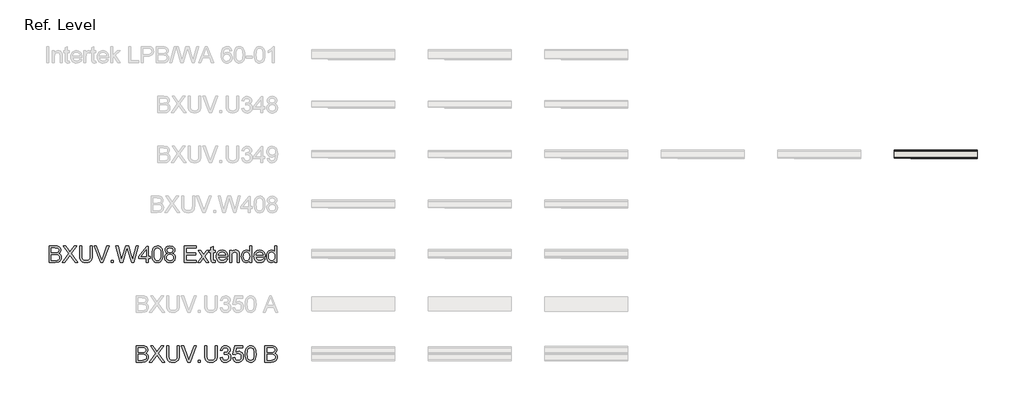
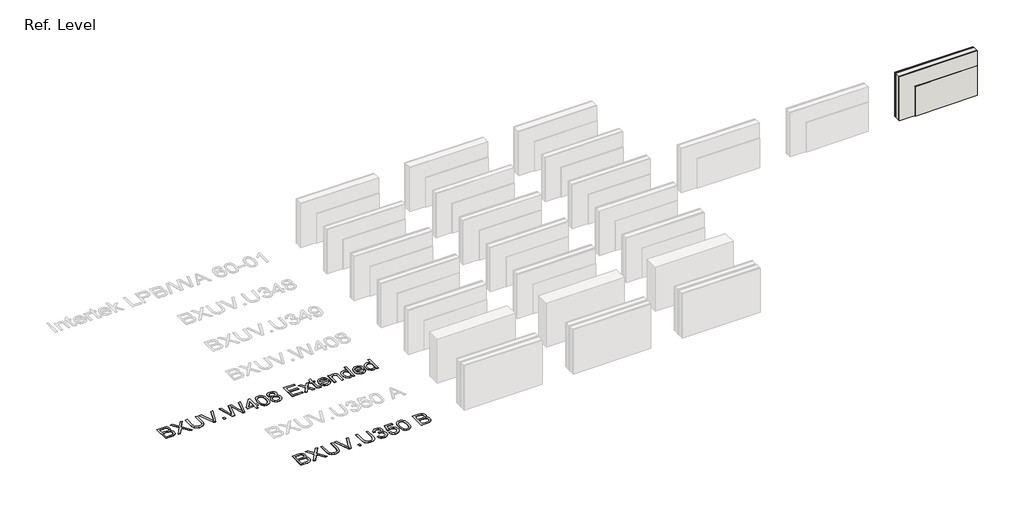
# One storey, part 2 of 5: 2 proxies, 1 wall.
"""IFC4 building model written with IfcOpenShell, lengths in millimetres."""

from ifc_helpers import new_model, si_unit, origin, origin_with_axes, place, context, project, spatial, polyline, outline, extrude, element, save

model = new_model("IFC4")

# Units and contexts
model_context = context("Model", 3, world=origin())
ifc_project = project(units=[si_unit("LENGTHUNIT", "METRE", prefix="MILLI")], contexts=[model_context])

# Site, building, storey
site = spatial("IfcSite", under=ifc_project)
building = spatial("IfcBuilding", under=site)
storey = spatial("IfcBuildingStorey", under=building, Name="Ref. Level", Elevation=0.0)

# Proxies
placement = place(None, origin())
element("IfcBuildingElementProxy", 1, Name="12\" Arial", ObjectType="12\" Arial", at=placement, inside=storey, context=model_context, shape_type="SweptSolid", body=[
    extrude(outline(polyline([(-10940.3470163, -6933.3819205), (-10940.3470163, -6633.2711512), (-10825.8272086, -6633.2711512), (-10794.330598, -6635.4783868), (-10769.7396125, -6642.1000935), (-10750.8911028, -6653.3011272), (-10736.6219202, -6669.2463435), (-10727.6372807, -6688.0032666), (-10724.6424009, -6707.6394205), (-10727.1610307, -6725.7094445), (-10734.7169202, -6742.6987474), (-10747.3650211, -6757.5632426), (-10765.1602855, -6769.2588435), (-10743.90305, -6780.359132), (-10728.1959586, -6797.2476897), (-10718.4969442, -6818.8071608), (-10715.2639394, -6843.9201897), (-10717.471175, -6864.8477137), (-10724.0928817, -6884.2549012), (-10733.9750692, -6900.7587955), (-10745.9637471, -6912.9764397), (-10760.6450692, -6921.8236993), (-10778.6051894, -6928.2164397), (-10826.7064394, -6933.3819205), (-10940.3470163, -6933.3819205)]), holes=[polyline([(-10902.8331702, -6755.1911512), (-10834.3264394, -6755.1911512), (-10794.3214394, -6751.9673051), (-10780.3178577, -6746.4080022), (-10770.2524971, -6738.0827858), (-10764.1803096, -6727.1198772), (-10762.1562471, -6713.6474974), (-10764.0429298, -6700.5689397), (-10769.7029778, -6689.1755743), (-10778.879949, -6680.2825214), (-10791.3174009, -6674.7049012), (-10839.5285548, -6670.7849974), (-10902.8331702, -6670.7849974), (-10902.8331702, -6755.1911512)]), polyline([(-10902.8331702, -6895.8680743), (-10825.9004778, -6895.8680743), (-10798.0581702, -6894.4026897), (-10774.5021125, -6886.2331705), (-10758.8957663, -6869.5644205), (-10754.3072807, -6857.7863916), (-10752.7777855, -6844.2865358), (-10754.5728817, -6828.6069205), (-10759.9581702, -6815.125382), (-10769.3641077, -6804.5837714), (-10783.2211509, -6797.7239397), (-10802.8481461, -6793.959733), (-10829.5639394, -6792.7049974), (-10902.8331702, -6792.7049974), (-10902.8331702, -6895.8680743)])]), origin_with_axes(), (0.0, 0.0, 1.0), 3.175),
    extrude(outline(polyline([(-10696.5070163, -6933.3819205), (-10580.8149009, -6769.8449974), (-10677.7500932, -6633.2711512), (-10632.7627855, -6633.2711512), (-10578.1772086, -6710.1305743), (-10559.7866317, -6740.0976897), (-10538.2454778, -6709.6176897), (-10484.2460548, -6633.2711512), (-10438.599324, -6633.2711512), (-10535.5345163, -6770.2846128), (-10419.8424009, -6933.3819205), (-10464.8297086, -6933.3819205), (-10541.9089394, -6824.650382), (-10557.9549009, -6802.0834589), (-10575.6127855, -6826.8484589), (-10650.8602855, -6933.3819205), (-10696.5070163, -6933.3819205)])), origin_with_axes(), (0.0, 0.0, 1.0), 3.175),
    extrude(outline(polyline([(-10185.3808625, -6633.2711512), (-10147.8670163, -6633.2711512), (-10147.8670163, -6806.4063435), (-10150.4131221, -6846.9517041), (-10158.0514394, -6878.1735551), (-10172.3206221, -6902.2608147), (-10194.759324, -6921.4024012), (-10225.4224971, -6933.9039637), (-10264.3650932, -6938.0711512), (-10302.4559346, -6934.4443243), (-10332.9084586, -6923.5638435), (-10355.731824, -6905.8052137), (-10370.9351894, -6881.5439397), (-10379.4802134, -6849.0032426), (-10382.3285548, -6806.4063435), (-10382.3285548, -6633.2711512), (-10344.8147086, -6633.2711512), (-10344.8147086, -6805.0874974), (-10342.9646605, -6838.8005022), (-10337.4145163, -6862.274132), (-10327.3583144, -6878.5307426), (-10311.9900932, -6890.5926897), (-10291.9509586, -6898.0661512), (-10267.8820163, -6900.5573051), (-10229.7270644, -6895.6299493), (-10215.4441437, -6889.4707546), (-10204.3575932, -6880.847882), (-10196.0552735, -6868.7218243), (-10190.1250452, -6852.0530743), (-10185.3808625, -6805.0874974), (-10185.3808625, -6633.2711512)])), origin_with_axes(), (0.0, 0.0, 1.0), 3.175),
    extrude(outline(polyline([(-9993.5620163, -6933.3819205), (-10112.9908625, -6633.2711512), (-10072.839324, -6633.2711512), (-9992.9025932, -6849.4886512), (-9976.7100932, -6898.2126897), (-9960.7374009, -6849.4886512), (-9880.5808625, -6633.2711512), (-9840.429324, -6633.2711512), (-9954.8025932, -6933.3819205), (-9993.5620163, -6933.3819205)])), origin_with_axes(), (0.0, 0.0, 1.0), 3.175),
    extrude(outline(polyline([(-9800.8639394, -6933.3819205), (-9800.8639394, -6895.8680743), (-9763.3500932, -6895.8680743), (-9763.3500932, -6933.3819205), (-9800.8639394, -6933.3819205)])), origin_with_axes(), (0.0, 0.0, 1.0), 3.175),
    extrude(outline(polyline([(-9491.3747086, -6633.2711512), (-9453.8608625, -6633.2711512), (-9453.8608625, -6806.4063435), (-9456.4069682, -6846.9517041), (-9464.0452855, -6878.1735551), (-9478.3144682, -6902.2608147), (-9500.7531702, -6921.4024012), (-9531.4163432, -6933.9039637), (-9570.3589394, -6938.0711512), (-9608.4497807, -6934.4443243), (-9638.9023048, -6923.5638435), (-9661.7256702, -6905.8052137), (-9676.9290355, -6881.5439397), (-9685.4740596, -6849.0032426), (-9688.3224009, -6806.4063435), (-9688.3224009, -6633.2711512), (-9650.8085548, -6633.2711512), (-9650.8085548, -6805.0874974), (-9648.9585067, -6838.8005022), (-9643.4083625, -6862.274132), (-9633.3521605, -6878.5307426), (-9617.9839394, -6890.5926897), (-9597.9448048, -6898.0661512), (-9573.8758625, -6900.5573051), (-9535.7209105, -6895.6299493), (-9521.4379899, -6889.4707546), (-9510.3514394, -6880.847882), (-9502.0491197, -6868.7218243), (-9496.1188913, -6852.0530743), (-9491.3747086, -6805.0874974), (-9491.3747086, -6633.2711512)])), origin_with_axes(), (0.0, 0.0, 1.0), 3.175),
    extrude(outline(polyline([(-9402.279324, -6853.6649974), (-9364.7654778, -6848.9757666), (-9356.3669923, -6872.5501416), (-9344.0669202, -6888.467882), (-9327.2607903, -6897.5349493), (-9305.3441317, -6900.5573051), (-9279.6266317, -6896.3992762), (-9259.7706702, -6883.9251897), (-9247.0767759, -6865.3148051), (-9242.8454778, -6842.747882), (-9247.0401413, -6821.3257906), (-9259.6241317, -6803.9518243), (-9278.6741317, -6792.4393964), (-9302.266824, -6788.6019205), (-9328.5704778, -6792.7049974), (-9324.3941317, -6755.1911512), (-9318.3860548, -6755.6307666), (-9295.9107182, -6752.9381224), (-9275.8166317, -6744.8601897), (-9261.6390355, -6731.1954781), (-9256.9131702, -6711.7424974), (-9260.3385067, -6695.5408387), (-9270.6145163, -6682.3981705), (-9286.2941317, -6673.6882906), (-9305.9302855, -6670.7849974), (-9325.603074, -6673.7157666), (-9341.6856702, -6682.5080743), (-9353.4270644, -6697.1619205), (-9360.0762471, -6717.6773051), (-9397.5900932, -6712.9880743), (-9386.5447567, -6679.3025455), (-9366.8902855, -6654.152882), (-9340.0004778, -6638.4915839), (-9307.2491317, -6633.2711512), (-9283.665598, -6635.844733), (-9262.0053817, -6643.5654781), (-9243.7430259, -6655.7464878), (-9230.353074, -6671.7008628), (-9222.1377615, -6690.082281), (-9219.399324, -6709.5444205), (-9222.0003817, -6727.6785551), (-9229.8035548, -6744.1274974), (-9242.6989394, -6758.1402378), (-9260.5766317, -6768.9657666), (-9237.0938432, -6778.454132), (-9219.6924009, -6794.6099974), (-9208.921824, -6816.554132), (-9205.3316317, -6843.4073051), (-9207.1267278, -6862.4389878), (-9212.5120163, -6879.9686512), (-9221.4874971, -6895.9962955), (-9234.0531702, -6910.5219205), (-9249.3618601, -6922.5747089), (-9266.5663913, -6931.1838435), (-9285.6667639, -6936.3493243), (-9306.6629778, -6938.0711512), (-9342.9312471, -6932.1912955), (-9358.5375932, -6924.8414757), (-9372.4587471, -6914.5517281), (-9384.1314514, -6901.9265238), (-9392.992449, -6887.5703339), (-9402.279324, -6853.6649974)])), origin_with_axes(), (0.0, 0.0, 1.0), 3.175),
    extrude(outline(polyline([(-9172.5070163, -6853.6649974), (-9134.9931702, -6848.9757666), (-9128.1058625, -6871.4968964), (-9116.0897086, -6887.6252858), (-9098.9996605, -6897.3243003), (-9076.8906702, -6900.5573051), (-9050.0008625, -6896.060406), (-9029.851824, -6882.5697089), (-9017.2678336, -6861.6421849), (-9013.0731702, -6834.8348051), (-9017.0022327, -6809.5935551), (-9028.7894202, -6790.2871128), (-9048.5263192, -6778.0328339), (-9076.3045163, -6773.9480743), (-9094.5027615, -6775.5783147), (-9109.2390355, -6780.4690358), (-9130.3039394, -6797.3942281), (-9167.8177855, -6792.7049974), (-9134.9931702, -6637.960382), (-8989.6270163, -6637.960382), (-8989.6270163, -6675.4742281), (-9104.6597086, -6675.4742281), (-9120.7056702, -6758.1219205), (-9093.907449, -6741.8561512), (-9065.8270163, -6736.4342281), (-9047.5577915, -6738.1148411), (-9030.776848, -6743.1566801), (-9015.4841858, -6751.559745), (-9001.6798048, -6763.3240358), (-8990.2520944, -6777.7305983), (-8982.0894442, -6794.0604781), (-8977.191854, -6812.3136753), (-8975.559324, -6832.4901897), (-8981.4391798, -6870.0040358), (-8988.7889995, -6886.7277378), (-8999.0787471, -6902.0959589), (-9014.6667759, -6917.8351056), (-9032.8558625, -6929.0773531), (-9053.6460067, -6935.8227017), (-9077.0372086, -6938.0711512), (-9113.882473, -6932.2920406), (-9129.4956882, -6925.0681524), (-9143.2359586, -6914.9547089), (-9154.6682483, -6902.4554361), (-9163.3575211, -6888.0740599), (-9172.5070163, -6853.6649974)])), origin_with_axes(), (0.0, 0.0, 1.0), 3.175),
    extrude(outline(polyline([(-8942.7347086, -6785.7444205), (-8939.9779538, -6737.707281), (-8931.7076894, -6699.396632), (-8918.0063432, -6670.2263195), (-8898.9563432, -6649.6101897), (-8874.4203096, -6637.3559108), (-8844.2608625, -6633.2711512), (-8821.1444202, -6635.6890358), (-8800.4458625, -6642.9426897), (-8783.1360067, -6654.7481945), (-8770.1856702, -6670.821632), (-8760.4042278, -6691.0256224), (-8752.6010548, -6715.2227858), (-8747.4905259, -6745.9500695), (-8745.7870163, -6785.7444205), (-8748.5162952, -6833.5068003), (-8756.7041317, -6871.7258628), (-8770.32305, -6900.9236512), (-8789.345574, -6921.6222089), (-8813.9365596, -6933.9589156), (-8844.2608625, -6938.0711512), (-8864.9227855, -6936.2852137), (-8883.2400932, -6930.9274012), (-8899.2127855, -6921.9977137), (-8912.8408625, -6909.4961512), (-8925.9194202, -6886.8971729), (-8935.2612471, -6858.7388916), (-8940.8663432, -6825.0213075), (-8942.7347086, -6785.7444205)]), holes=[polyline([(-8905.2208625, -6785.6711512), (-8900.8247086, -6844.680358), (-8895.3295163, -6864.8637414), (-8887.6362471, -6878.8329781), (-8868.0000932, -6895.1262233), (-8844.2608625, -6900.5573051), (-8820.5216317, -6895.107906), (-8800.8854778, -6878.7597089), (-8793.1922086, -6864.7675755), (-8787.6970163, -6844.5887714), (-8783.3008625, -6785.6711512), (-8787.5504778, -6727.9899493), (-8792.8624971, -6707.8729661), (-8800.299324, -6693.5717281), (-8819.8988432, -6676.4816801), (-8844.7004778, -6670.7849974), (-8868.1832663, -6675.8039397), (-8887.0500932, -6690.8607666), (-8894.9998048, -6706.4304781), (-8900.6781702, -6727.4221128), (-8905.2208625, -6785.6711512)])]), origin_with_axes(), (0.0, 0.0, 1.0), 3.175),
    extrude(outline(polyline([(-8581.6639394, -6933.3819205), (-8581.6639394, -6633.2711512), (-8467.1441317, -6633.2711512), (-8435.6475211, -6635.4783868), (-8411.0565355, -6642.1000935), (-8392.2080259, -6653.3011272), (-8377.9388432, -6669.2463435), (-8368.9542038, -6688.0032666), (-8365.959324, -6707.6394205), (-8368.4779538, -6725.7094445), (-8376.0338432, -6742.6987474), (-8388.6819442, -6757.5632426), (-8406.4772086, -6769.2588435), (-8385.219973, -6780.359132), (-8369.5128817, -6797.2476897), (-8359.8138673, -6818.8071608), (-8356.5808625, -6843.9201897), (-8358.788098, -6864.8477137), (-8365.4098048, -6884.2549012), (-8375.2919923, -6900.7587955), (-8387.2806702, -6912.9764397), (-8401.9619923, -6921.8236993), (-8419.9221125, -6928.2164397), (-8468.0233625, -6933.3819205), (-8581.6639394, -6933.3819205)]), holes=[polyline([(-8544.1500932, -6755.1911512), (-8475.6433625, -6755.1911512), (-8435.6383625, -6751.9673051), (-8421.6347807, -6746.4080022), (-8411.5694202, -6738.0827858), (-8405.4972327, -6727.1198772), (-8403.4731702, -6713.6474974), (-8405.3598528, -6700.5689397), (-8411.0199009, -6689.1755743), (-8420.1968721, -6680.2825214), (-8432.634324, -6674.7049012), (-8480.8454778, -6670.7849974), (-8544.1500932, -6670.7849974), (-8544.1500932, -6755.1911512)]), polyline([(-8544.1500932, -6895.8680743), (-8467.2174009, -6895.8680743), (-8439.3750932, -6894.4026897), (-8415.8190355, -6886.2331705), (-8400.2126894, -6869.5644205), (-8395.6242038, -6857.7863916), (-8394.0947086, -6844.2865358), (-8395.8898048, -6828.6069205), (-8401.2750932, -6815.125382), (-8410.6810307, -6804.5837714), (-8424.538074, -6797.7239397), (-8444.1650692, -6793.959733), (-8470.8808625, -6792.7049974), (-8544.1500932, -6792.7049974), (-8544.1500932, -6895.8680743)])]), origin_with_axes(), (0.0, 0.0, 1.0), 3.175),
])
element("IfcBuildingElementProxy", 2, Name="12\" Arial", ObjectType="12\" Arial", at=placement, inside=storey, context=model_context, shape_type="SweptSolid", body=[
    extrude(outline(polyline([(-12534.6854778, -5104.5819205), (-12534.6854778, -4804.4711512), (-12420.1656702, -4804.4711512), (-12388.6690596, -4806.6783868), (-12364.078074, -4813.3000935), (-12345.2295644, -4824.5011272), (-12330.9603817, -4840.4463435), (-12321.9757423, -4859.2032666), (-12318.9808625, -4878.8394205), (-12321.4994923, -4896.9094445), (-12329.0553817, -4913.8987474), (-12341.7034827, -4928.7632426), (-12359.4987471, -4940.4588435), (-12338.2415115, -4951.559132), (-12322.5344202, -4968.4476897), (-12312.8354057, -4990.0071608), (-12309.6024009, -5015.1201897), (-12311.8096365, -5036.0477137), (-12318.4313432, -5055.4549012), (-12328.3135307, -5071.9587955), (-12340.3022086, -5084.1764397), (-12354.9835307, -5093.0236993), (-12372.9436509, -5099.4164397), (-12421.0449009, -5104.5819205), (-12534.6854778, -5104.5819205)]), holes=[polyline([(-12497.1716317, -4926.3911512), (-12428.6649009, -4926.3911512), (-12388.6599009, -4923.1673051), (-12374.6563192, -4917.6080022), (-12364.5909586, -4909.2827858), (-12358.5187711, -4898.3198772), (-12356.4947086, -4884.8474974), (-12358.3813913, -4871.7689397), (-12364.0414394, -4860.3755743), (-12373.2184105, -4851.4825214), (-12385.6558625, -4845.9049012), (-12433.8670163, -4841.9849974), (-12497.1716317, -4841.9849974), (-12497.1716317, -4926.3911512)]), polyline([(-12497.1716317, -5067.0680743), (-12420.2389394, -5067.0680743), (-12392.3966317, -5065.6026897), (-12368.840574, -5057.4331705), (-12353.2342278, -5040.7644205), (-12348.6457423, -5028.9863916), (-12347.1162471, -5015.4865358), (-12348.9113432, -4999.8069205), (-12354.2966317, -4986.325382), (-12363.7025692, -4975.7837714), (-12377.5596125, -4968.9239397), (-12397.1866077, -4965.159733), (-12423.9024009, -4963.9049974), (-12497.1716317, -4963.9049974), (-12497.1716317, -5067.0680743)])]), origin_with_axes(), (0.0, 0.0, 1.0), 3.175),
    extrude(outline(polyline([(-12290.8454778, -5104.5819205), (-12175.1533625, -4941.0449974), (-12272.0885548, -4804.4711512), (-12227.1012471, -4804.4711512), (-12172.5156702, -4881.3305743), (-12154.1250932, -4911.2976897), (-12132.5839394, -4880.8176897), (-12078.5845163, -4804.4711512), (-12032.9377855, -4804.4711512), (-12129.8729778, -4941.4846128), (-12014.1808625, -5104.5819205), (-12059.1681702, -5104.5819205), (-12136.2474009, -4995.850382), (-12152.2933625, -4973.2834589), (-12169.9512471, -4998.0484589), (-12245.1987471, -5104.5819205), (-12290.8454778, -5104.5819205)])), origin_with_axes(), (0.0, 0.0, 1.0), 3.175),
    extrude(outline(polyline([(-11779.719324, -4804.4711512), (-11742.2054778, -4804.4711512), (-11742.2054778, -4977.6063435), (-11744.7515836, -5018.1517041), (-11752.3899009, -5049.3735551), (-11766.6590836, -5073.4608147), (-11789.0977855, -5092.6024012), (-11819.7609586, -5105.1039637), (-11858.7035548, -5109.2711512), (-11896.7943961, -5105.6443243), (-11927.2469202, -5094.7638435), (-11950.0702855, -5077.0052137), (-11965.2736509, -5052.7439397), (-11973.818675, -5020.2032426), (-11976.6670163, -4977.6063435), (-11976.6670163, -4804.4711512), (-11939.1531702, -4804.4711512), (-11939.1531702, -4976.2874974), (-11937.3031221, -5010.0005022), (-11931.7529778, -5033.474132), (-11921.6967759, -5049.7307426), (-11906.3285548, -5061.7926897), (-11886.2894202, -5069.2661512), (-11862.2204778, -5071.7573051), (-11824.0655259, -5066.8299493), (-11809.7826052, -5060.6707546), (-11798.6960548, -5052.047882), (-11790.3937351, -5039.9218243), (-11784.4635067, -5023.2530743), (-11779.719324, -4976.2874974), (-11779.719324, -4804.4711512)])), origin_with_axes(), (0.0, 0.0, 1.0), 3.175),
    extrude(outline(polyline([(-11587.9004778, -5104.5819205), (-11707.329324, -4804.4711512), (-11667.1777855, -4804.4711512), (-11587.2410548, -5020.6886512), (-11571.0485548, -5069.4126897), (-11555.0758625, -5020.6886512), (-11474.919324, -4804.4711512), (-11434.7677855, -4804.4711512), (-11549.1410548, -5104.5819205), (-11587.9004778, -5104.5819205)])), origin_with_axes(), (0.0, 0.0, 1.0), 3.175),
    extrude(outline(polyline([(-11395.2024009, -5104.5819205), (-11395.2024009, -5067.0680743), (-11357.6885548, -5067.0680743), (-11357.6885548, -5104.5819205), (-11395.2024009, -5104.5819205)])), origin_with_axes(), (0.0, 0.0, 1.0), 3.175),
    extrude(outline(polyline([(-11228.9545163, -5104.5819205), (-11310.7962471, -4804.4711512), (-11272.1100932, -4804.4711512), (-11224.6316317, -5001.7119205), (-11209.9777855, -5062.5986512), (-11194.2981702, -5008.7457666), (-11134.8035548, -4804.4711512), (-11079.0456702, -4804.4711512), (-11035.816824, -4952.5482666), (-11017.2980259, -5007.5001897), (-11003.6516317, -5062.5986512), (-10989.4374009, -5003.470382), (-10941.519324, -4804.4711512), (-10902.8331702, -4804.4711512), (-10984.7481702, -5104.5819205), (-11024.8264394, -5104.5819205), (-11096.776824, -4873.0511512), (-11106.8147086, -4840.7394205), (-11118.0981702, -4879.645382), (-11183.6741317, -5104.5819205), (-11228.9545163, -5104.5819205)])), origin_with_axes(), (0.0, 0.0, 1.0), 3.175),
    extrude(outline(polyline([(-10757.4670163, -5104.5819205), (-10757.4670163, -5034.2434589), (-10893.4547086, -5034.2434589), (-10893.4547086, -4996.7296128), (-10748.0885548, -4809.160382), (-10719.9531702, -4809.160382), (-10719.9531702, -4996.7296128), (-10682.439324, -4996.7296128), (-10682.439324, -5034.2434589), (-10719.9531702, -5034.2434589), (-10719.9531702, -5104.5819205), (-10757.4670163, -5104.5819205)]), holes=[polyline([(-10757.4670163, -4996.7296128), (-10757.4670163, -4880.8176897), (-10847.2950932, -4996.7296128), (-10757.4670163, -4996.7296128)])]), origin_with_axes(), (0.0, 0.0, 1.0), 3.175),
    extrude(outline(polyline([(-10649.6147086, -4956.9444205), (-10646.8579538, -4908.907281), (-10638.5876894, -4870.596632), (-10624.8863432, -4841.4263195), (-10605.8363432, -4820.8101897), (-10581.3003096, -4808.5559108), (-10551.1408625, -4804.4711512), (-10528.0244202, -4806.8890358), (-10507.3258625, -4814.1426897), (-10490.0160067, -4825.9481945), (-10477.0656702, -4842.021632), (-10467.2842278, -4862.2256224), (-10459.4810548, -4886.4227858), (-10454.3705259, -4917.1500695), (-10452.6670163, -4956.9444205), (-10455.3962952, -5004.7068003), (-10463.5841317, -5042.9258628), (-10477.20305, -5072.1236512), (-10496.225574, -5092.8222089), (-10520.8165596, -5105.1589156), (-10551.1408625, -5109.2711512), (-10571.8027855, -5107.4852137), (-10590.1200932, -5102.1274012), (-10606.0927855, -5093.1977137), (-10619.7208625, -5080.6961512), (-10632.7994202, -5058.0971729), (-10642.1412471, -5029.9388916), (-10647.7463432, -4996.2213075), (-10649.6147086, -4956.9444205)]), holes=[polyline([(-10612.1008625, -4956.8711512), (-10607.7047086, -5015.880358), (-10602.2095163, -5036.0637414), (-10594.5162471, -5050.0329781), (-10574.8800932, -5066.3262233), (-10551.1408625, -5071.7573051), (-10527.4016317, -5066.307906), (-10507.7654778, -5049.9597089), (-10500.0722086, -5035.9675755), (-10494.5770163, -5015.7887714), (-10490.1808625, -4956.8711512), (-10494.4304778, -4899.1899493), (-10499.7424971, -4879.0729661), (-10507.179324, -4864.7717281), (-10526.7788432, -4847.6816801), (-10551.5804778, -4841.9849974), (-10575.0632663, -4847.0039397), (-10593.9300932, -4862.0607666), (-10601.8798048, -4877.6304781), (-10607.5581702, -4898.6221128), (-10612.1008625, -4956.8711512)])]), origin_with_axes(), (0.0, 0.0, 1.0), 3.175),
    extrude(outline(polyline([(-10365.1835548, -4939.2865358), (-10385.2684827, -4929.3951897), (-10399.3636509, -4915.9869205), (-10407.6888673, -4899.3364878), (-10410.4639394, -4879.7186512), (-10408.9527615, -4864.41912), (-10404.4192278, -4850.3926416), (-10396.8633384, -4837.6392161), (-10386.2850932, -4826.1588435), (-10373.1927976, -4816.6704781), (-10358.0947567, -4809.8930743), (-10321.8814394, -4804.4711512), (-10285.4483144, -4810.0212955), (-10270.1854177, -4816.9589757), (-10256.8916317, -4826.6717281), (-10246.1210548, -4838.3764878), (-10238.4277855, -4851.2901897), (-10233.811824, -4865.4128339), (-10232.2731702, -4880.7444205), (-10235.0116077, -4899.7303099), (-10243.2269202, -4916.0968243), (-10257.0106942, -4929.4226656), (-10276.4545163, -4939.2865358), (-10253.36555, -4951.1836272), (-10236.5594202, -4968.704132), (-10226.3108865, -4991.0054541), (-10222.8947086, -5017.2449974), (-10224.5890596, -5035.9561272), (-10229.6721125, -5053.1102858), (-10238.1438673, -5068.7074733), (-10250.004324, -5082.7476897), (-10264.6306942, -5094.3517041), (-10281.4001894, -5102.6402858), (-10300.3128096, -5107.6134349), (-10321.3685548, -5109.2711512), (-10342.4243, -5107.6065659), (-10361.3369202, -5102.6128099), (-10378.1064153, -5094.2898832), (-10392.7327855, -5082.6377858), (-10404.5932423, -5068.499114), (-10413.0649971, -5052.7164637), (-10418.14805, -5035.2898351), (-10419.8424009, -5016.2192281), (-10416.2888432, -4988.9630743), (-10405.6281702, -4966.5426897), (-10388.4099009, -4949.7274012), (-10365.1835548, -4939.2865358)]), holes=[polyline([(-10382.3285548, -5014.900382), (-10376.0640355, -5043.1456705), (-10367.3907903, -5055.2625695), (-10353.9000932, -5064.2838435), (-10337.7442278, -5069.8889397), (-10321.0754778, -5071.7573051), (-10295.5411509, -5067.8282426), (-10276.3812471, -5056.0410551), (-10264.4017278, -5038.1908387), (-10260.4085548, -5016.0726897), (-10264.529949, -4993.5790358), (-10276.8941317, -4975.3349974), (-10296.4936509, -4963.2455743), (-10322.3210548, -4959.2157666), (-10347.4981942, -4963.1906224), (-10366.4657663, -4975.1151897), (-10378.3628577, -4993.0111993), (-10382.3285548, -5014.900382)]), polyline([(-10372.9500932, -4880.8176897), (-10369.6255019, -4897.1933628), (-10359.6517278, -4910.2719205), (-10343.321848, -4918.8444205), (-10320.9289394, -4921.7019205), (-10299.058074, -4918.8627378), (-10282.9754778, -4910.3451897), (-10273.0841317, -4897.7062474), (-10269.7870163, -4882.502882), (-10273.1940355, -4866.7225214), (-10283.4150932, -4853.6714397), (-10299.7174971, -4844.906608), (-10321.3685548, -4841.9849974), (-10343.1569923, -4844.8424974), (-10359.4319202, -4853.4149974), (-10369.57055, -4865.9806705), (-10372.9500932, -4880.8176897)])]), origin_with_axes(), (0.0, 0.0, 1.0), 3.175),
    extrude(outline(polyline([(-10058.7716317, -5104.5819205), (-10058.7716317, -4804.4711512), (-9843.0670163, -4804.4711512), (-9843.0670163, -4841.9849974), (-10021.2577855, -4841.9849974), (-10021.2577855, -4931.080382), (-9852.4454778, -4931.080382), (-9852.4454778, -4968.5942281), (-10021.2577855, -4968.5942281), (-10021.2577855, -5067.0680743), (-9838.3777855, -5067.0680743), (-9838.3777855, -5104.5819205), (-10058.7716317, -5104.5819205)])), origin_with_axes(), (0.0, 0.0, 1.0), 3.175),
    extrude(outline(polyline([(-9810.2424009, -5104.5819205), (-9730.0858625, -4993.7988435), (-9805.5531702, -4884.1880743), (-9760.419324, -4884.1880743), (-9724.0045163, -4936.9419205), (-9707.0060548, -4961.8534589), (-9692.2789394, -4941.4846128), (-9650.8085548, -4884.1880743), (-9605.6747086, -4884.1880743), (-9684.9520163, -4993.7988435), (-9608.6054778, -5104.5819205), (-9653.739324, -5104.5819205), (-9699.6791317, -5037.9801897), (-9708.1050932, -5025.8174974), (-9765.1085548, -5104.5819205), (-9810.2424009, -5104.5819205)])), origin_with_axes(), (0.0, 0.0, 1.0), 3.175),
    extrude(outline(polyline([(-9496.0639394, -5073.2959589), (-9491.3747086, -5105.6809589), (-9519.436824, -5109.2711512), (-9537.4427375, -5107.7141801), (-9550.869324, -5103.0432666), (-9560.3576894, -5095.8445647), (-9566.5489394, -5086.7042281), (-9569.9559586, -5071.0062955), (-9571.0916317, -5044.1348051), (-9571.0916317, -4921.7019205), (-9599.2270163, -4921.7019205), (-9599.2270163, -4884.1880743), (-9571.0916317, -4884.1880743), (-9571.0916317, -4830.6282666), (-9533.5777855, -4808.5742281), (-9533.5777855, -4884.1880743), (-9496.0639394, -4884.1880743), (-9496.0639394, -4921.7019205), (-9533.5777855, -4921.7019205), (-9533.5777855, -5043.0357666), (-9531.5995163, -5062.3788435), (-9525.1884586, -5069.2295166), (-9512.4029778, -5071.7573051), (-9496.0639394, -5073.2959589)])), origin_with_axes(), (0.0, 0.0, 1.0), 3.175),
    extrude(outline(polyline([(-9304.2450932, -5038.9326897), (-9267.4639394, -5043.6219205), (-9280.7165115, -5071.336007), (-9301.8638432, -5092.052882), (-9330.4296846, -5104.9665839), (-9365.9377855, -5109.2711512), (-9389.2145043, -5107.4142342), (-9409.9542759, -5101.843483), (-9428.1571004, -5092.5588976), (-9443.8229778, -5079.5604781), (-9456.4207062, -5063.2099914), (-9465.4190836, -5043.8692041), (-9470.8181101, -5021.5381164), (-9472.6177855, -4996.2167281), (-9470.7997927, -4970.0367161), (-9465.3458144, -4946.9614878), (-9456.2558504, -4926.9910431), (-9443.5299009, -4910.125382), (-9427.9052375, -4896.7262714), (-9410.1191317, -4887.1554781), (-9390.1715836, -4881.4130022), (-9368.0625932, -4879.4988435), (-9346.6656882, -4881.4084229), (-9327.3157423, -4887.1371608), (-9310.0127555, -4896.6850575), (-9294.7567278, -4910.0521128), (-9282.3032483, -4926.8811392), (-9273.4079057, -4946.8149493), (-9268.0707002, -4969.8535431), (-9266.2916317, -4995.9969205), (-9266.5114394, -5006.1080743), (-9435.1039394, -5006.1080743), (-9428.6104538, -5034.188507), (-9413.5261509, -5054.8321128), (-9391.7560307, -5067.526007), (-9365.2050932, -5071.7573051), (-9345.2392278, -5069.7973531), (-9328.4239394, -5063.9174974), (-9314.7592278, -5053.7513916), (-9304.2450932, -5038.9326897)]), holes=[polyline([(-9435.1039394, -4968.5942281), (-9303.8054778, -4968.5942281), (-9308.8793721, -4948.7749012), (-9318.8256702, -4934.5973051), (-9340.6965355, -4921.4088435), (-9368.2091317, -4917.0126897), (-9393.496175, -4920.5204541), (-9414.4053817, -4931.0437474), (-9428.9401653, -4947.4468964), (-9435.1039394, -4968.5942281)])]), origin_with_axes(), (0.0, 0.0, 1.0), 3.175),
    extrude(outline(polyline([(-9228.7777855, -5104.5819205), (-9228.7777855, -4884.1880743), (-9191.2639394, -4884.1880743), (-9191.2639394, -4914.9611512), (-9178.231175, -4899.4463916), (-9162.5790355, -4888.3644205), (-9144.3075211, -4881.7152378), (-9123.4166317, -4879.4988435), (-9104.9253096, -4881.284781), (-9087.9909586, -4886.6425935), (-9073.8683144, -4894.9036993), (-9063.8121125, -4905.3995166), (-9052.5652855, -4932.985382), (-9050.5870163, -4969.2536512), (-9050.5870163, -5104.5819205), (-9088.1008625, -5104.5819205), (-9088.1008625, -4974.3092281), (-9092.4237471, -4941.1182666), (-9098.404348, -4931.2360791), (-9107.7003817, -4923.5702858), (-9119.6157903, -4918.6520887), (-9133.4545163, -4917.0126897), (-9155.4261269, -4920.6944685), (-9174.155574, -4931.7398051), (-9181.6404839, -4940.7564998), (-9186.986848, -4953.0794685), (-9191.2639394, -4987.6442281), (-9191.2639394, -5104.5819205), (-9228.7777855, -5104.5819205)])), origin_with_axes(), (0.0, 0.0, 1.0), 3.175),
    extrude(outline(polyline([(-8863.0177855, -5104.5819205), (-8863.0177855, -5069.192882), (-8874.2417158, -5086.7271248), (-8887.8377375, -5099.2515839), (-8903.8058504, -5106.7662594), (-8922.1460548, -5109.2711512), (-8946.3981702, -5105.6443243), (-8968.5987471, -5094.7638435), (-8987.3923048, -5077.3898772), (-9001.4233625, -5054.2825935), (-9010.1607182, -5026.3761753), (-9013.0731702, -4994.6048051), (-9010.3896846, -4963.227257), (-9002.3392278, -4934.890382), (-8988.9309586, -4911.2061031), (-8970.1740355, -4893.7863435), (-8947.48805, -4883.0707185), (-8922.2925932, -4879.4988435), (-8903.9386509, -4882.054108), (-8887.7095163, -4889.7199012), (-8873.9532182, -4901.4704541), (-8863.0177855, -4916.2799974), (-8863.0177855, -4804.4711512), (-8825.5039394, -4804.4711512), (-8825.5039394, -5104.5819205), (-8863.0177855, -5104.5819205)]), holes=[polyline([(-8975.559324, -4994.4582666), (-8971.3280259, -5028.3910791), (-8958.6341317, -5052.524132), (-8940.1886028, -5066.9490118), (-8918.7024009, -5071.7573051), (-8897.2253577, -5067.1688195), (-8879.2469202, -5053.4033628), (-8867.0750692, -5030.2044926), (-8863.0177855, -4997.3157666), (-8867.1483384, -4961.3588916), (-8879.5399971, -4936.4290358), (-8897.9763673, -4921.8667762), (-8920.2410548, -4917.0126897), (-8941.9470644, -4921.6744445), (-8959.7331702, -4935.6597089), (-8971.6027855, -4959.682858), (-8975.559324, -4994.4582666)])]), origin_with_axes(), (0.0, 0.0, 1.0), 3.175),
    extrude(outline(polyline([(-8614.9281702, -5038.9326897), (-8578.1470163, -5043.6219205), (-8591.3995884, -5071.336007), (-8612.5469202, -5092.052882), (-8641.1127615, -5104.9665839), (-8676.6208625, -5109.2711512), (-8699.8975812, -5107.4142342), (-8720.6373528, -5101.843483), (-8738.8401774, -5092.5588976), (-8754.5060548, -5079.5604781), (-8767.1037831, -5063.2099914), (-8776.1021605, -5043.8692041), (-8781.501187, -5021.5381164), (-8783.3008625, -4996.2167281), (-8781.4828697, -4970.0367161), (-8776.0288913, -4946.9614878), (-8766.9389274, -4926.9910431), (-8754.2129778, -4910.125382), (-8738.5883144, -4896.7262714), (-8720.8022086, -4887.1554781), (-8700.8546605, -4881.4130022), (-8678.7456702, -4879.4988435), (-8657.3487651, -4881.4084229), (-8637.9988192, -4887.1371608), (-8620.6958324, -4896.6850575), (-8605.4398048, -4910.0521128), (-8592.9863252, -4926.8811392), (-8584.0909827, -4946.8149493), (-8578.7537771, -4969.8535431), (-8576.9747086, -4995.9969205), (-8577.1945163, -5006.1080743), (-8745.7870163, -5006.1080743), (-8739.2935307, -5034.188507), (-8724.2092278, -5054.8321128), (-8702.4391077, -5067.526007), (-8675.8881702, -5071.7573051), (-8655.9223048, -5069.7973531), (-8639.1070163, -5063.9174974), (-8625.4423048, -5053.7513916), (-8614.9281702, -5038.9326897)]), holes=[polyline([(-8745.7870163, -4968.5942281), (-8614.4885548, -4968.5942281), (-8619.562449, -4948.7749012), (-8629.5087471, -4934.5973051), (-8651.3796125, -4921.4088435), (-8678.8922086, -4917.0126897), (-8704.1792519, -4920.5204541), (-8725.0884586, -4931.0437474), (-8739.6232423, -4947.4468964), (-8745.7870163, -4968.5942281)])]), origin_with_axes(), (0.0, 0.0, 1.0), 3.175),
    extrude(outline(polyline([(-8403.4731702, -5104.5819205), (-8403.4731702, -5069.192882), (-8414.6971004, -5086.7271248), (-8428.2931221, -5099.2515839), (-8444.2612351, -5106.7662594), (-8462.6014394, -5109.2711512), (-8486.8535548, -5105.6443243), (-8509.0541317, -5094.7638435), (-8527.8476894, -5077.3898772), (-8541.8787471, -5054.2825935), (-8550.6161028, -5026.3761753), (-8553.5285548, -4994.6048051), (-8550.8450692, -4963.227257), (-8542.7946125, -4934.890382), (-8529.3863432, -4911.2061031), (-8510.6294202, -4893.7863435), (-8487.9434346, -4883.0707185), (-8462.7479778, -4879.4988435), (-8444.3940355, -4882.054108), (-8428.1649009, -4889.7199012), (-8414.4086028, -4901.4704541), (-8403.4731702, -4916.2799974), (-8403.4731702, -4804.4711512), (-8365.959324, -4804.4711512), (-8365.959324, -5104.5819205), (-8403.4731702, -5104.5819205)]), holes=[polyline([(-8516.0147086, -4994.4582666), (-8511.7834105, -5028.3910791), (-8499.0895163, -5052.524132), (-8480.6439875, -5066.9490118), (-8459.1577855, -5071.7573051), (-8437.6807423, -5067.1688195), (-8419.7023048, -5053.4033628), (-8407.5304538, -5030.2044926), (-8403.4731702, -4997.3157666), (-8407.603723, -4961.3588916), (-8419.9953817, -4936.4290358), (-8438.4317519, -4921.8667762), (-8460.6964394, -4917.0126897), (-8482.402449, -4921.6744445), (-8500.1885548, -4935.6597089), (-8512.0581702, -4959.682858), (-8516.0147086, -4994.4582666)])]), origin_with_axes(), (0.0, 0.0, 1.0), 3.175),
])

# Wall
element("IfcWall", 3, ObjectType="LP FlameBlock - LP Building Products - 19/32\" - BXUV.U349 - Metal Stud", at=placement, inside=storey, context=model_context, shape_type="SweptSolid", body=[
    extrude(outline(polyline([(4463.7760606, -3203.9475455), (3244.5760606, -3203.9475455), (3244.5760606, -3191.2475455), (4463.7760606, -3191.2475455), (4463.7760606, -3203.9475455)])), origin_with_axes(), (0.0, 0.0, 1.0), 609.6),
    extrude(outline(polyline([(2939.7760606, -3042.8162955), (4463.7760606, -3042.8162955), (4463.7760606, -3058.6912955), (2939.7760606, -3058.6912955), (2939.7760606, -3042.8162955)])), origin_with_axes(), (0.0, 0.0, 1.0), 914.4),
    extrude(outline(polyline([(2939.7760606, -3176.1662955), (2939.7760606, -3074.5662955), (4463.7760606, -3074.5662955), (4463.7760606, -3176.1662955), (2939.7760606, -3176.1662955)])), origin_with_axes(), (0.0, 0.0, 1.0), 914.4),
    extrude(outline(polyline([(2939.7760606, -3191.2475455), (2939.7760606, -3176.1662955), (4463.7760606, -3176.1662955), (4463.7760606, -3191.2475455), (2939.7760606, -3191.2475455)])), origin_with_axes(), (0.0, 0.0, 1.0), 914.4),
    extrude(outline(polyline([(2939.7760606, -3074.5662955), (2939.7760606, -3058.6912955), (4463.7760606, -3058.6912955), (4463.7760606, -3074.5662955), (2939.7760606, -3074.5662955)])), origin_with_axes(), (0.0, 0.0, 1.0), 914.4),
])

save(model, "model.ifc")
